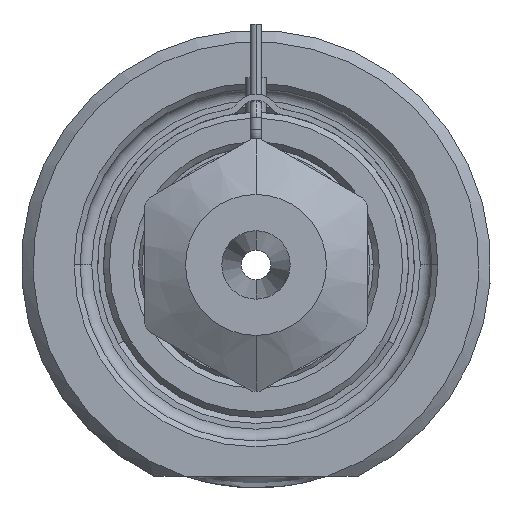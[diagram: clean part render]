
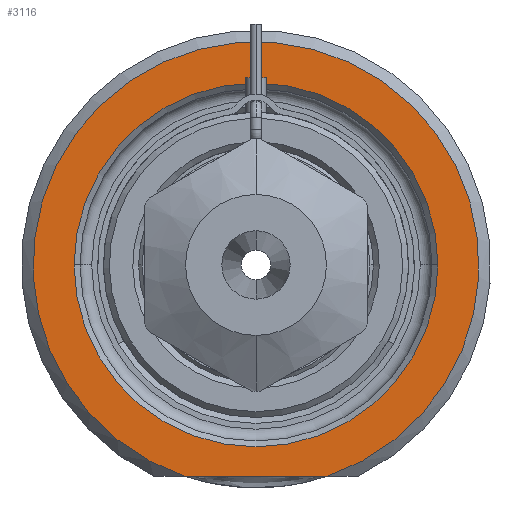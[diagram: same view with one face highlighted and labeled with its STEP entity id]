
A CAD part, front view. The second image highlights one B-rep face of the part: STEP entity #3116.
In plain terms, the highlighted planar face has unit normal (0, -1, 0).
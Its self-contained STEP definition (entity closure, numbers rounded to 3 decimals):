
#1=DIRECTION('',(1.,0.,0.));
#2=VECTOR('',#1,12.166);
#3=CARTESIAN_POINT('',(-6.083,0.,-18.));
#4=LINE('',#3,#2);
#5=CARTESIAN_POINT('',(0.,0.,0.));
#6=DIRECTION('',(0.,1.,0.));
#7=DIRECTION('',(-1.,0.,0.));
#8=AXIS2_PLACEMENT_3D('',#5,#6,#7);
#10=CARTESIAN_POINT('',(0.,0.,0.));
#11=DIRECTION('',(0.,1.,0.));
#12=DIRECTION('',(1.,0.,0.));
#13=AXIS2_PLACEMENT_3D('',#10,#11,#12);
#264=CARTESIAN_POINT('',(0.,0.,0.));
#265=DIRECTION('',(0.,-1.,0.));
#266=DIRECTION('',(0.32,0.,-0.947));
#267=AXIS2_PLACEMENT_3D('',#264,#265,#266);
#2615=CARTESIAN_POINT('',(-15.5,0.,0.));
#2616=CARTESIAN_POINT('',(15.5,0.,0.));
#2617=VERTEX_POINT('',#2615);
#2618=VERTEX_POINT('',#2616);
#2673=CARTESIAN_POINT('',(-6.083,0.,-18.));
#2674=CARTESIAN_POINT('',(6.083,0.,-18.));
#2675=VERTEX_POINT('',#2673);
#2676=VERTEX_POINT('',#2674);
#3099=CARTESIAN_POINT('',(0.,0.,0.));
#3100=DIRECTION('',(0.,-1.,0.));
#3101=DIRECTION('',(1.,0.,0.));
#3102=AXIS2_PLACEMENT_3D('',#3099,#3100,#3101);
#3103=PLANE('',#3102);
#3105=ORIENTED_EDGE('',*,*,#3104,.F.);
#3107=ORIENTED_EDGE('',*,*,#3106,.F.);
#3108=EDGE_LOOP('',(#3105,#3107));
#3109=FACE_OUTER_BOUND('',#3108,.F.);
#3111=ORIENTED_EDGE('',*,*,#3110,.F.);
#3113=ORIENTED_EDGE('',*,*,#3112,.F.);
#3114=EDGE_LOOP('',(#3111,#3113));
#3115=FACE_BOUND('',#3114,.F.);
#3116=ADVANCED_FACE('',(#3109,#3115),#3103,.T.);
#9=CIRCLE('',#8,15.5);
#14=CIRCLE('',#13,15.5);
#268=CIRCLE('',#267,19.);
#3104=EDGE_CURVE('',#2675,#2676,#4,.T.);
#3106=EDGE_CURVE('',#2676,#2675,#268,.T.);
#3110=EDGE_CURVE('',#2617,#2618,#9,.T.);
#3112=EDGE_CURVE('',#2618,#2617,#14,.T.);
